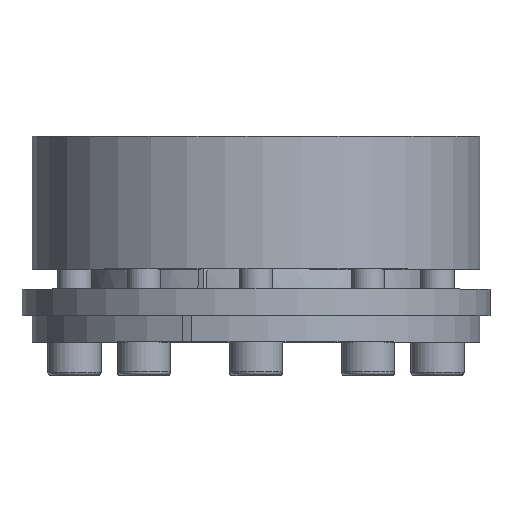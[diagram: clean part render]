
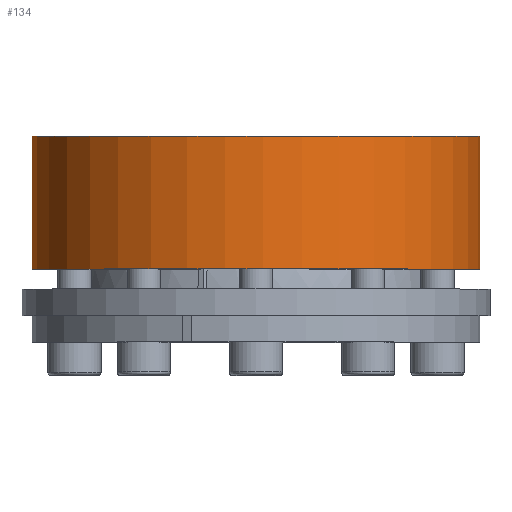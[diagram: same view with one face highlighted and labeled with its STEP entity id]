
A CAD part, top view. The second image highlights one B-rep face of the part: STEP entity #134.
In plain terms, the highlighted cylindrical face has radius 67.5 mm (diameter 135 mm), a partial arc.
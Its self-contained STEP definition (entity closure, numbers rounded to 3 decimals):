
#134 = ADVANCED_FACE( '', ( #319 ), #320, .T. );
#319 = FACE_OUTER_BOUND( '', #541, .T. );
#320 = CYLINDRICAL_SURFACE( '', #542, 67.5 );
#541 = EDGE_LOOP( '', ( #918, #919, #920, #921 ) );
#542 = AXIS2_PLACEMENT_3D( '', #922, #923, #924 );
#918 = ORIENTED_EDGE( '', *, *, #1193, .F. );
#919 = ORIENTED_EDGE( '', *, *, #1246, .T. );
#920 = ORIENTED_EDGE( '', *, *, #1255, .T. );
#921 = ORIENTED_EDGE( '', *, *, #1138, .F. );
#922 = CARTESIAN_POINT( '', ( 0., -60., 0. ) );
#923 = DIRECTION( '', ( 0., 1., 0. ) );
#924 = DIRECTION( '', ( 0., 0., -1. ) );
#1138 = EDGE_CURVE( '', #1356, #1357, #1358, .F. );
#1193 = EDGE_CURVE( '', #1455, #1356, #1457, .T. );
#1246 = EDGE_CURVE( '', #1455, #1533, #1535, .F. );
#1255 = EDGE_CURVE( '', #1533, #1357, #1551, .T. );
#1356 = VERTEX_POINT( '', #1737 );
#1357 = VERTEX_POINT( '', #1738 );
#1358 = LINE( '', #1739, #1740 );
#1455 = VERTEX_POINT( '', #1864 );
#1457 = CIRCLE( '', #1867, 67.5 );
#1533 = VERTEX_POINT( '', #1960 );
#1535 = LINE( '', #1963, #1964 );
#1551 = CIRCLE( '', #1980, 67.5 );
#1737 = CARTESIAN_POINT( '', ( 19.571, 22., -64.601 ) );
#1738 = CARTESIAN_POINT( '', ( 19.571, 62., -64.601 ) );
#1739 = CARTESIAN_POINT( '', ( 19.571, -60., -64.601 ) );
#1740 = VECTOR( '', #2058, 1000. );
#1864 = CARTESIAN_POINT( '', ( 22.138, 22., -63.766 ) );
#1867 = AXIS2_PLACEMENT_3D( '', #2162, #2163, #2164 );
#1960 = CARTESIAN_POINT( '', ( 22.138, 62., -63.766 ) );
#1963 = CARTESIAN_POINT( '', ( 22.138, -60., -63.766 ) );
#1964 = VECTOR( '', #2246, 1000. );
#1980 = AXIS2_PLACEMENT_3D( '', #2268, #2269, #2270 );
#2058 = DIRECTION( '', ( 0., -1., 0. ) );
#2162 = CARTESIAN_POINT( '', ( 0., 22., 0. ) );
#2163 = DIRECTION( '', ( 0., -1., 0. ) );
#2164 = DIRECTION( '', ( 0., 0., -1. ) );
#2246 = DIRECTION( '', ( 0., -1., 0. ) );
#2268 = CARTESIAN_POINT( '', ( 0., 62., 0. ) );
#2269 = DIRECTION( '', ( 0., -1., 0. ) );
#2270 = DIRECTION( '', ( 0., 0., -1. ) );
